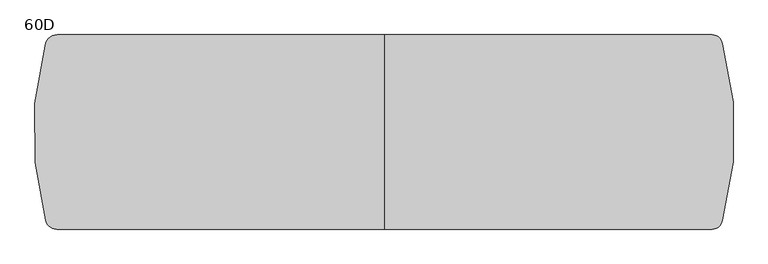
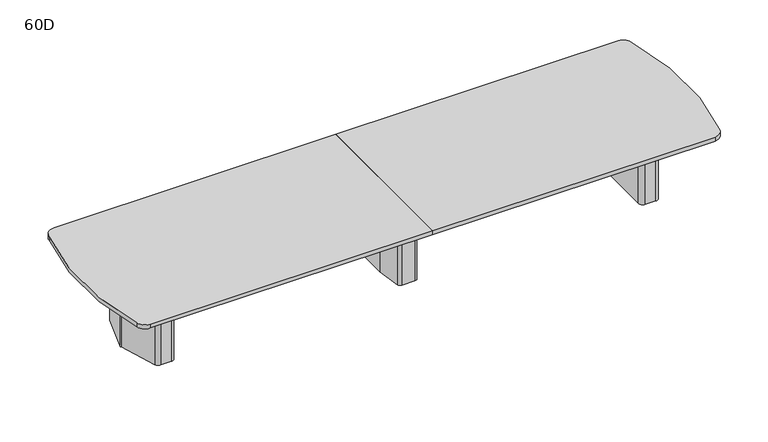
"""IFC4 building model written with IfcOpenShell, lengths in millimetres: furniture geometry, Coalesse_AM_Table_Conference_ETable2_SoftRadiused_18ft_ThreeBase : 60D."""

from ifc_helpers import new_model, si_unit, point, frame, frame_2d, origin, origin_with_axes, place, context, project, spatial, polyline, circle_curve, trimmed, segment, composite_curve, outline, extrude, source, transform, mapped, element, save
from ifc_brep_helpers import plane_surface, cylinder_surface, revolved_surface, advanced_brep


def furniture_60d_32bce57b(model_context):
    return source(origin(), model_context, "Body", "SolidModel", [
        advanced_brep(
        [(61.0357815, 381.0, 698.5), (-61.0357815, 381.0, 698.5), (-86.1885994, 359.1349332, 698.5), (-117.2278179, 138.2753661, 698.5), (-117.475, 134.740433, 698.5), (-117.475, -134.7404196, 698.5), (-117.2278463, -138.2751502, 698.5), (-86.1904395, -359.1347306, 698.5), (-61.0375932, -381.0, 698.5), (61.0375932, -381.0, 698.5), (86.1904395, -359.1347306, 698.5), (117.2278463, -138.2751502, 698.5), (117.475, -134.7404196, 698.5), (117.475, 134.740433, 698.5), (117.2278179, 138.2753661, 698.5), (86.1885994, 359.1349332, 698.5), (25.4, 314.325, 698.5), (50.8, 288.925, 698.5), (50.8, -288.925, 698.5), (25.4, -314.325, 698.5), (-25.4, -314.325, 698.5), (-50.8, -288.925, 698.5), (-50.8, 288.925, 698.5), (-25.4, 314.325, 698.5), (61.0357815, 381.0, 3.175), (86.1885994, 359.1349332, 3.175), (117.2278179, 138.2753661, 3.175), (117.475, 134.740433, 3.175), (117.475, -134.7404196, 3.175), (117.2278463, -138.2751502, 3.175), (86.1904395, -359.1347306, 3.175), (61.0375932, -381.0, 3.175), (-61.0375932, -381.0, 3.175), (-86.1904395, -359.1347306, 3.175), (-117.2278463, -138.2751502, 3.175), (-117.475, -134.7404196, 3.175), (-117.475, 134.740433, 3.175), (-117.2278179, 138.2753661, 3.175), (-86.1885994, 359.1349332, 3.175), (-61.0357815, 381.0, 3.175), (25.4, 327.025, 3.175), (-25.4, 327.025, 3.175), (-63.5, 288.925, 3.175), (-63.5, -288.925, 3.175), (-25.4, -327.025, 3.175), (25.4, -327.025, 3.175), (63.5, -288.925, 3.175), (63.5, 288.925, 3.175), (25.4, 314.325, 3.175), (50.8, 288.925, 3.175), (50.8, -288.925, 3.175), (25.4, -314.325, 3.175), (-25.4, -314.325, 3.175), (-50.8, -288.925, 3.175), (-50.8, 288.925, 3.175), (-25.4, 314.325, 3.175), (25.4, 327.025, 0.0), (63.5, 288.925, 0.0), (63.5, -288.925, 0.0), (25.4, -327.025, 0.0), (-25.4, -327.025, 0.0), (-63.5, -288.925, 0.0), (-63.5, 288.925, 0.0), (-25.4, 327.025, 0.0)],
        [
            (0, 1),
            (1, 2, circle_curve(frame((-61.0357815, 355.6, 698.5), z_axis=(0.0, 0.0, 1.0), x_axis=(1.0, 0.0, 0.0)), 25.4)),
            (2, 3),
            (3, 4, circle_curve(frame((-92.075, 134.740433, 698.5), z_axis=(0.0, 0.0, 1.0), x_axis=(1.0, 0.0, 0.0)), 25.4)),
            (4, 5),
            (5, 6, circle_curve(frame((-92.075, -134.7404196, 698.5), z_axis=(0.0, 0.0, 1.0), x_axis=(1.0, 0.0, 0.0)), 25.4)),
            (6, 7),
            (7, 8, circle_curve(frame((-61.0375932, -355.6, 698.5), z_axis=(0.0, 0.0, 1.0), x_axis=(1.0, 0.0, 0.0)), 25.4)),
            (8, 9),
            (9, 10, circle_curve(frame((61.0375932, -355.6, 698.5), z_axis=(0.0, 0.0, 1.0), x_axis=(1.0, 0.0, 0.0)), 25.4)),
            (10, 11),
            (11, 12, circle_curve(frame((92.075, -134.7404196, 698.5), z_axis=(0.0, 0.0, 1.0), x_axis=(1.0, 0.0, 0.0)), 25.4)),
            (12, 13),
            (13, 14, circle_curve(frame((92.075, 134.740433, 698.5), z_axis=(0.0, 0.0, 1.0), x_axis=(1.0, 0.0, 0.0)), 25.4)),
            (14, 15),
            (15, 0, circle_curve(frame((61.0357815, 355.6, 698.5), z_axis=(0.0, 0.0, 1.0), x_axis=(1.0, 0.0, 0.0)), 25.4)),
            (16, 17, circle_curve(frame((25.4, 288.925, 698.5), z_axis=(0.0, 0.0, -1.0), x_axis=(1.0, 0.0, 0.0)), 25.4)),
            (17, 18),
            (18, 19, circle_curve(frame((25.4, -288.925, 698.5), z_axis=(0.0, 0.0, -1.0), x_axis=(1.0, 0.0, 0.0)), 25.4)),
            (19, 20),
            (20, 21, circle_curve(frame((-25.4, -288.925, 698.5), z_axis=(0.0, 0.0, -1.0), x_axis=(1.0, 0.0, 0.0)), 25.4)),
            (21, 22),
            (22, 23, circle_curve(frame((-25.4, 288.925, 698.5), z_axis=(0.0, 0.0, -1.0), x_axis=(1.0, 0.0, 0.0)), 25.4)),
            (23, 16),
            (24, 25, circle_curve(frame((61.0357815, 355.6, 3.175), z_axis=(0.0, 0.0, -1.0), x_axis=(1.0, 0.0, 0.0)), 25.4)),
            (25, 26),
            (26, 27, circle_curve(frame((92.075, 134.740433, 3.175), z_axis=(0.0, 0.0, -1.0), x_axis=(1.0, 0.0, 0.0)), 25.4)),
            (27, 28),
            (28, 29, circle_curve(frame((92.075, -134.7404196, 3.175), z_axis=(0.0, 0.0, -1.0), x_axis=(1.0, 0.0, 0.0)), 25.4)),
            (29, 30),
            (30, 31, circle_curve(frame((61.0375932, -355.6, 3.175), z_axis=(0.0, 0.0, -1.0), x_axis=(1.0, 0.0, 0.0)), 25.4)),
            (31, 32),
            (32, 33, circle_curve(frame((-61.0375932, -355.6, 3.175), z_axis=(0.0, 0.0, -1.0), x_axis=(1.0, 0.0, 0.0)), 25.4)),
            (33, 34),
            (34, 35, circle_curve(frame((-92.075, -134.7404196, 3.175), z_axis=(0.0, 0.0, -1.0), x_axis=(1.0, 0.0, 0.0)), 25.4)),
            (35, 36),
            (36, 37, circle_curve(frame((-92.075, 134.740433, 3.175), z_axis=(0.0, 0.0, -1.0), x_axis=(1.0, 0.0, 0.0)), 25.4)),
            (37, 38),
            (38, 39, circle_curve(frame((-61.0357815, 355.6, 3.175), z_axis=(0.0, 0.0, -1.0), x_axis=(1.0, 0.0, 0.0)), 25.4)),
            (39, 24),
            (40, 41),
            (41, 42, circle_curve(frame((-25.4, 288.925, 3.175), z_axis=(0.0, 0.0, 1.0), x_axis=(1.0, 0.0, 0.0)), 38.1)),
            (42, 43),
            (43, 44, circle_curve(frame((-25.4, -288.925, 3.175), z_axis=(0.0, 0.0, 1.0), x_axis=(1.0, 0.0, 0.0)), 38.1)),
            (44, 45),
            (45, 46, circle_curve(frame((25.4, -288.925, 3.175), z_axis=(0.0, 0.0, 1.0), x_axis=(1.0, 0.0, 0.0)), 38.1)),
            (46, 47),
            (47, 40, circle_curve(frame((25.4, 288.925, 3.175), z_axis=(0.0, 0.0, 1.0), x_axis=(1.0, 0.0, 0.0)), 38.1)),
            (0, 24),
            (39, 1),
            (38, 2),
            (37, 3),
            (36, 4),
            (35, 5),
            (34, 6),
            (33, 7),
            (32, 8),
            (31, 9),
            (30, 10),
            (29, 11),
            (28, 12),
            (27, 13),
            (26, 14),
            (25, 15),
            (16, 48),
            (48, 49, circle_curve(frame((25.4, 288.925, 3.175), z_axis=(0.0, 0.0, -1.0), x_axis=(1.0, 0.0, 0.0)), 25.4)),
            (49, 17),
            (49, 50),
            (50, 18),
            (50, 51, circle_curve(frame((25.4, -288.925, 3.175), z_axis=(0.0, 0.0, -1.0), x_axis=(1.0, 0.0, 0.0)), 25.4)),
            (51, 19),
            (51, 52),
            (52, 20),
            (52, 53, circle_curve(frame((-25.4, -288.925, 3.175), z_axis=(0.0, 0.0, -1.0), x_axis=(1.0, 0.0, 0.0)), 25.4)),
            (53, 21),
            (53, 54),
            (54, 22),
            (54, 55, circle_curve(frame((-25.4, 288.925, 3.175), z_axis=(0.0, 0.0, -1.0), x_axis=(1.0, 0.0, 0.0)), 25.4)),
            (55, 23),
            (55, 48),
            (56, 57, circle_curve(frame((25.4, 288.925, 0.0), z_axis=(0.0, 0.0, -1.0), x_axis=(1.0, 0.0, 0.0)), 38.1)),
            (57, 58),
            (58, 59, circle_curve(frame((25.4, -288.925, 0.0), z_axis=(0.0, 0.0, -1.0), x_axis=(1.0, 0.0, 0.0)), 38.1)),
            (59, 60),
            (60, 61, circle_curve(frame((-25.4, -288.925, 0.0), z_axis=(0.0, 0.0, -1.0), x_axis=(1.0, 0.0, 0.0)), 38.1)),
            (61, 62),
            (62, 63, circle_curve(frame((-25.4, 288.925, 0.0), z_axis=(0.0, 0.0, -1.0), x_axis=(1.0, 0.0, 0.0)), 38.1)),
            (63, 56),
            (63, 41),
            (40, 56),
            (62, 42),
            (61, 43),
            (60, 44),
            (59, 45),
            (58, 46),
            (57, 47),
        ],
        [
            plane_surface(frame((-1524.0, 381.0, 698.5), z_axis=(0.0, 0.0, 1.0), x_axis=(-1.0, 0.0, 0.0))),
            plane_surface(frame((-1524.0, 381.0, 3.175), z_axis=(0.0, 0.0, -1.0), x_axis=(1.0, 0.0, 0.0))),
            plane_surface(frame((61.0357815, 381.0, 698.5), z_axis=(0.0, 1.0, 0.0), x_axis=(0.0, 0.0, -1.0))),
            cylinder_surface(frame((-61.0357815, 355.6, 3.175), z_axis=(0.0, 0.0, 1.0), x_axis=(1.0, 0.0, 0.0)), 25.4),
            plane_surface(frame((-86.1885994, 359.1349332, 698.5), z_axis=(-0.9902684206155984, 0.13917059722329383, 0.0), x_axis=(0.0, 0.0, -1.0))),
            cylinder_surface(frame((-92.075, 134.740433, 3.175), z_axis=(0.0, 0.0, 1.0), x_axis=(1.0, 0.0, 0.0)), 25.4),
            plane_surface(frame((-117.475, 134.740433, 698.5), z_axis=(-1.0, 0.0, 0.0), x_axis=(0.0, 0.0, -1.0))),
            cylinder_surface(frame((-92.075, -134.7404196, 3.175), z_axis=(0.0, 0.0, 1.0), x_axis=(1.0, 0.0, 0.0)), 25.4),
            plane_surface(frame((-117.2278463, -138.2751502, 698.5), z_axis=(-0.9902695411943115, -0.1391626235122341, 0.0), x_axis=(0.0, 0.0, -1.0))),
            cylinder_surface(frame((-61.0375932, -355.6, 3.175), z_axis=(0.0, 0.0, 1.0), x_axis=(1.0, 0.0, 0.0)), 25.4),
            plane_surface(frame((-61.0375932, -381.0, 698.5), z_axis=(0.0, -1.0, 0.0), x_axis=(0.0, 0.0, -1.0))),
            cylinder_surface(frame((61.0375932, -355.6, 3.175), z_axis=(0.0, 0.0, 1.0), x_axis=(1.0, 0.0, 0.0)), 25.4),
            plane_surface(frame((86.1904395, -359.1347306, 698.5), z_axis=(0.9902695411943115, -0.1391626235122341, 0.0), x_axis=(0.0, 0.0, -1.0))),
            cylinder_surface(frame((92.075, -134.7404196, 3.175), z_axis=(0.0, 0.0, 1.0), x_axis=(1.0, 0.0, 0.0)), 25.4),
            plane_surface(frame((117.475, -134.7404196, 698.5), z_axis=(1.0, 0.0, 0.0), x_axis=(0.0, 0.0, -1.0))),
            cylinder_surface(frame((92.075, 134.740433, 3.175), z_axis=(0.0, 0.0, 1.0), x_axis=(1.0, 0.0, 0.0)), 25.4),
            plane_surface(frame((117.2278179, 138.2753661, 698.5), z_axis=(0.9902684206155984, 0.13917059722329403, 0.0), x_axis=(0.0, 0.0, -1.0))),
            cylinder_surface(frame((61.0357815, 355.6, 3.175), z_axis=(0.0, 0.0, 1.0), x_axis=(1.0, 0.0, 0.0)), 25.4),
            revolved_surface(polyline([(50.8, 288.925, 3.175), (50.8, 288.925, 698.5)]), (25.4, 288.925, 0.0), (0.0, 0.0, -1.0)),
            plane_surface(frame((50.8, 288.925, 698.5), z_axis=(-1.0, 0.0, 0.0), x_axis=(0.0, 0.0, -1.0))),
            revolved_surface(polyline([(50.8, -288.925, 3.175), (50.8, -288.925, 698.5)]), (25.4, -288.925, 0.0), (0.0, 0.0, -1.0)),
            plane_surface(frame((25.4, -314.325, 698.5), z_axis=(0.0, 1.0, 0.0), x_axis=(0.0, 0.0, -1.0))),
            revolved_surface(polyline([(0.0, -288.925, 3.175), (0.0, -288.925, 698.5)]), (-25.4, -288.925, 0.0), (0.0, 0.0, -1.0)),
            plane_surface(frame((-50.8, -288.925, 698.5), z_axis=(1.0, 0.0, 0.0), x_axis=(0.0, 0.0, -1.0))),
            revolved_surface(polyline([(0.0, 288.925, 3.175), (0.0, 288.925, 698.5)]), (-25.4, 288.925, 0.0), (0.0, 0.0, -1.0)),
            plane_surface(frame((-25.4, 314.325, 698.5), z_axis=(0.0, -1.0, 0.0), x_axis=(0.0, 0.0, -1.0))),
            plane_surface(frame((-50.8, 327.025, 3.175), z_axis=(0.0, 0.0, 1.0), x_axis=(-1.0, 0.0, 0.0))),
            plane_surface(frame((-50.8, 327.025, 0.0), z_axis=(0.0, 0.0, -1.0), x_axis=(1.0, 0.0, 0.0))),
            plane_surface(frame((25.4, 327.025, 3.175), z_axis=(0.0, 1.0, 0.0), x_axis=(0.0, 0.0, -1.0))),
            cylinder_surface(frame((-25.4, 288.925, 0.0), z_axis=(0.0, 0.0, 1.0), x_axis=(1.0, 0.0, 0.0)), 38.1),
            plane_surface(frame((-63.5, 288.925, 3.175), z_axis=(-1.0, 0.0, 0.0), x_axis=(0.0, 0.0, -1.0))),
            cylinder_surface(frame((-25.4, -288.925, 0.0), z_axis=(0.0, 0.0, 1.0), x_axis=(1.0, 0.0, 0.0)), 38.1),
            plane_surface(frame((-25.4, -327.025, 3.175), z_axis=(0.0, -1.0, 0.0), x_axis=(0.0, 0.0, -1.0))),
            cylinder_surface(frame((25.4, -288.925, 0.0), z_axis=(0.0, 0.0, 1.0), x_axis=(1.0, 0.0, 0.0)), 38.1),
            plane_surface(frame((63.5, -288.925, 3.175), z_axis=(1.0, 0.0, 0.0), x_axis=(0.0, 0.0, -1.0))),
            cylinder_surface(frame((25.4, 288.925, 0.0), z_axis=(0.0, 0.0, 1.0), x_axis=(1.0, 0.0, 0.0)), 38.1),
        ],
        [
            (0, [[1, 2, 3, 4, 5, 6, 7, 8, 9, 10, 11, 12, 13, 14, 15, 16], [17, 18, 19, 20, 21, 22, 23, 24]]),
            (1, [[25, 26, 27, 28, 29, 30, 31, 32, 33, 34, 35, 36, 37, 38, 39, 40], [41, 42, 43, 44, 45, 46, 47, 48]]),
            (2, [[-1, 49, -40, 50]]),
            (3, [[-2, -50, -39, 51]]),
            (4, [[-3, -51, -38, 52]]),
            (5, [[-4, -52, -37, 53]]),
            (6, [[-5, -53, -36, 54]]),
            (7, [[-6, -54, -35, 55]]),
            (8, [[-7, -55, -34, 56]]),
            (9, [[-8, -56, -33, 57]]),
            (10, [[-9, -57, -32, 58]]),
            (11, [[-10, -58, -31, 59]]),
            (12, [[-11, -59, -30, 60]]),
            (13, [[-12, -60, -29, 61]]),
            (14, [[-13, -61, -28, 62]]),
            (15, [[-14, -62, -27, 63]]),
            (16, [[-15, -63, -26, 64]]),
            (17, [[-16, -64, -25, -49]]),
            (18, [[-17, 65, 66, 67]]),
            (19, [[-18, -67, 68, 69]]),
            (20, [[-19, -69, 70, 71]]),
            (21, [[-20, -71, 72, 73]]),
            (22, [[-21, -73, 74, 75]]),
            (23, [[-22, -75, 76, 77]]),
            (24, [[-23, -77, 78, 79]]),
            (25, [[-24, -79, 80, -65]]),
            (26, [[-66, -80, -78, -76, -74, -72, -70, -68]]),
            (27, [[81, 82, 83, 84, 85, 86, 87, 88]]),
            (28, [[-88, 89, -41, 90]]),
            (29, [[-87, 91, -42, -89]]),
            (30, [[-86, 92, -43, -91]]),
            (31, [[-85, 93, -44, -92]]),
            (32, [[-84, 94, -45, -93]]),
            (33, [[-83, 95, -46, -94]]),
            (34, [[-82, 96, -47, -95]]),
            (35, [[-81, -90, -48, -96]]),
        ],
    ),
        extrude(outline(composite_curve([segment(polyline([(2341.5625, 101.7236478), (2341.5625, -97.2761514)]), True, "CONTINUOUS"), segment(trimmed(circle_curve(frame_2d((2303.4625, -97.2761514)), 38.1), [point((2341.5625, -97.2761514))], [point((2339.7991129, -108.7330515))], False, "CARTESIAN"), True, "CONTINUOUS"), segment(polyline([(2339.7991129, -108.7330515), (2281.3745591, -294.0319001)]), True, "CONTINUOUS"), segment(trimmed(circle_curve(frame_2d((2245.0379462, -282.575)), 38.1), [point((2281.3745591, -294.0319001))], [point((2245.0379462, -320.675))], False, "CARTESIAN"), True, "CONTINUOUS"), segment(polyline([(2245.0379462, -320.675), (2178.05, -320.675)]), True, "CONTINUOUS"), segment(trimmed(circle_curve(frame_2d((2178.05, -282.575)), 38.1), [point((2178.05, -320.675))], [point((2139.95, -282.575))], False, "CARTESIAN"), True, "CONTINUOUS"), segment(polyline([(2139.95, -282.575), (2139.95, 282.575)]), True, "CONTINUOUS"), segment(trimmed(circle_curve(frame_2d((2178.05, 282.575)), 38.1), [point((2139.95, 282.575))], [point((2178.05, 320.675))], False, "CARTESIAN"), True, "CONTINUOUS"), segment(polyline([(2178.05, 320.675), (2248.7873998, 320.675)]), True, "CONTINUOUS"), segment(trimmed(circle_curve(frame_2d((2248.7873998, 282.575)), 38.1), [point((2248.7873998, 320.675))], [point((2285.2572049, 293.6005756))], False, "CARTESIAN"), True, "CONTINUOUS"), segment(polyline([(2285.2572049, 293.6005756), (2339.9323051, 112.7492234)]), True, "CONTINUOUS"), segment(trimmed(circle_curve(frame_2d((2303.4625, 101.7236478)), 38.1), [point((2339.9323051, 112.7492234))], [point((2341.5625, 101.7236478))], False, "CARTESIAN"), True, "CONTINUOUS")], self_intersect=False)), origin_with_axes(), (0.0, 0.0, 1.0), 3.175),
        extrude(outline(composite_curve([segment(polyline([(2162.175, 381.0), (2250.3221663, 381.0)]), True, "CONTINUOUS"), segment(trimmed(circle_curve(frame_2d((2250.3221663, 339.725)), 41.275), [point((2250.3221663, 381.0))], [point((2289.6868303, 352.1366418))], False, "CARTESIAN"), True, "CONTINUOUS"), segment(polyline([(2289.6868303, 352.1366418), (2396.8018053, 12.4116418)]), True, "CONTINUOUS"), segment(trimmed(circle_curve(frame_2d((2357.4371413, 0.0)), 41.275), [point((2396.8018053, 12.4116418))], [point((2396.8018053, -12.4116418))], False, "CARTESIAN"), True, "CONTINUOUS"), segment(polyline([(2396.8018053, -12.4116418), (2289.6868303, -352.1366418)]), True, "CONTINUOUS"), segment(trimmed(circle_curve(frame_2d((2250.3221663, -339.725)), 41.275), [point((2289.6868303, -352.1366418))], [point((2250.3221663, -381.0))], False, "CARTESIAN"), True, "CONTINUOUS"), segment(polyline([(2250.3221663, -381.0), (2155.825, -381.0)]), True, "CONTINUOUS"), segment(trimmed(circle_curve(frame_2d((2155.825, -339.725)), 41.275), [point((2155.825, -381.0))], [point((2114.55, -339.725))], False, "CARTESIAN"), True, "CONTINUOUS"), segment(polyline([(2114.55, -339.725), (2114.55, 333.375)]), True, "CONTINUOUS"), segment(trimmed(circle_curve(frame_2d((2162.175, 333.375)), 47.625), [point((2114.55, 333.375))], [point((2162.175, 381.0))], False, "CARTESIAN"), True, "CONTINUOUS")], self_intersect=False), holes=[composite_curve([segment(trimmed(circle_curve(frame_2d((2178.05, -282.575)), 25.4), [point((2152.65, -282.575))], [point((2178.05, -307.975))], True, "CARTESIAN"), True, "CONTINUOUS"), segment(polyline([(2178.05, -307.975), (2245.0379462, -307.975)]), True, "CONTINUOUS"), segment(trimmed(circle_curve(frame_2d((2245.0379462, -282.575)), 25.4), [point((2245.0379462, -307.975))], [point((2269.2623548, -290.2129334))], True, "CARTESIAN"), True, "CONTINUOUS"), segment(polyline([(2269.2623548, -290.2129334), (2327.6869086, -104.9140848)]), True, "CONTINUOUS"), segment(trimmed(circle_curve(frame_2d((2303.4625, -97.2761514)), 25.4), [point((2327.6869086, -104.9140848))], [point((2328.8625, -97.2761514))], True, "CARTESIAN"), True, "CONTINUOUS"), segment(polyline([(2328.8625, -97.2761514), (2328.8625, 101.7236478)]), True, "CONTINUOUS"), segment(trimmed(circle_curve(frame_2d((2303.4625, 101.7236478)), 25.4), [point((2328.8625, 101.7236478))], [point((2327.7757034, 109.0740316))], True, "CARTESIAN"), True, "CONTINUOUS"), segment(polyline([(2327.7757034, 109.0740316), (2273.1006032, 289.9253837)]), True, "CONTINUOUS"), segment(trimmed(circle_curve(frame_2d((2248.7873998, 282.575)), 25.4), [point((2273.1006032, 289.9253837))], [point((2248.7873998, 307.975))], True, "CARTESIAN"), True, "CONTINUOUS"), segment(polyline([(2248.7873998, 307.975), (2178.05, 307.975)]), True, "CONTINUOUS"), segment(trimmed(circle_curve(frame_2d((2178.05, 282.575)), 25.4), [point((2178.05, 307.975))], [point((2152.65, 282.575))], True, "CARTESIAN"), True, "CONTINUOUS"), segment(polyline([(2152.65, 282.575), (2152.65, -282.575)]), True, "CONTINUOUS")], self_intersect=False)]), frame((0.0, 0.0, 3.175), z_axis=(0.0, 0.0, 1.0), x_axis=(1.0, 0.0, 0.0)), (0.0, 0.0, 1.0), 695.325),
        extrude(outline(composite_curve([segment(trimmed(circle_curve(frame_2d((-2303.4625, 101.7236478)), 38.1), [point((-2341.5625, 101.7236478))], [point((-2339.9323051, 112.7492234))], False, "CARTESIAN"), True, "CONTINUOUS"), segment(polyline([(-2339.9323051, 112.7492234), (-2285.2572049, 293.6005756)]), True, "CONTINUOUS"), segment(trimmed(circle_curve(frame_2d((-2248.7873998, 282.575)), 38.1), [point((-2285.2572049, 293.6005756))], [point((-2248.7873998, 320.675))], False, "CARTESIAN"), True, "CONTINUOUS"), segment(polyline([(-2248.7873998, 320.675), (-2178.05, 320.675)]), True, "CONTINUOUS"), segment(trimmed(circle_curve(frame_2d((-2178.05, 282.575)), 38.1), [point((-2178.05, 320.675))], [point((-2139.95, 282.575))], False, "CARTESIAN"), True, "CONTINUOUS"), segment(polyline([(-2139.95, 282.575), (-2139.95, -282.575)]), True, "CONTINUOUS"), segment(trimmed(circle_curve(frame_2d((-2178.05, -282.575)), 38.1), [point((-2139.95, -282.575))], [point((-2178.05, -320.675))], False, "CARTESIAN"), True, "CONTINUOUS"), segment(polyline([(-2178.05, -320.675), (-2245.0379462, -320.675)]), True, "CONTINUOUS"), segment(trimmed(circle_curve(frame_2d((-2245.0379462, -282.575)), 38.1), [point((-2245.0379462, -320.675))], [point((-2281.3745591, -294.0319001))], False, "CARTESIAN"), True, "CONTINUOUS"), segment(polyline([(-2281.3745591, -294.0319001), (-2339.7991129, -108.7330515)]), True, "CONTINUOUS"), segment(trimmed(circle_curve(frame_2d((-2303.4625, -97.2761514)), 38.1), [point((-2339.7991129, -108.7330515))], [point((-2341.5625, -97.2761514))], False, "CARTESIAN"), True, "CONTINUOUS"), segment(polyline([(-2341.5625, -97.2761514), (-2341.5625, 101.7236478)]), True, "CONTINUOUS")], self_intersect=False)), origin_with_axes(), (0.0, 0.0, 1.0), 3.175),
        extrude(outline(composite_curve([segment(trimmed(circle_curve(frame_2d((-2162.175, 333.375)), 47.625), [point((-2162.175, 381.0))], [point((-2114.55, 333.375))], False, "CARTESIAN"), True, "CONTINUOUS"), segment(polyline([(-2114.55, 333.375), (-2114.55, -339.725)]), True, "CONTINUOUS"), segment(trimmed(circle_curve(frame_2d((-2155.825, -339.725)), 41.275), [point((-2114.55, -339.725))], [point((-2155.825, -381.0))], False, "CARTESIAN"), True, "CONTINUOUS"), segment(polyline([(-2155.825, -381.0), (-2250.3221663, -381.0)]), True, "CONTINUOUS"), segment(trimmed(circle_curve(frame_2d((-2250.3221663, -339.725)), 41.275), [point((-2250.3221663, -381.0))], [point((-2289.6868303, -352.1366418))], False, "CARTESIAN"), True, "CONTINUOUS"), segment(polyline([(-2289.6868303, -352.1366418), (-2396.8018053, -12.4116418)]), True, "CONTINUOUS"), segment(trimmed(circle_curve(frame_2d((-2357.4371413, 0.0)), 41.275), [point((-2396.8018053, -12.4116418))], [point((-2396.8018053, 12.4116418))], False, "CARTESIAN"), True, "CONTINUOUS"), segment(polyline([(-2396.8018053, 12.4116418), (-2289.6868303, 352.1366418)]), True, "CONTINUOUS"), segment(trimmed(circle_curve(frame_2d((-2250.3221663, 339.725)), 41.275), [point((-2289.6868303, 352.1366418))], [point((-2250.3221663, 381.0))], False, "CARTESIAN"), True, "CONTINUOUS"), segment(polyline([(-2250.3221663, 381.0), (-2162.175, 381.0)]), True, "CONTINUOUS")], self_intersect=False), holes=[composite_curve([segment(polyline([(-2152.65, -282.575), (-2152.65, 282.575)]), True, "CONTINUOUS"), segment(trimmed(circle_curve(frame_2d((-2178.05, 282.575)), 25.4), [point((-2152.65, 282.575))], [point((-2178.05, 307.975))], True, "CARTESIAN"), True, "CONTINUOUS"), segment(polyline([(-2178.05, 307.975), (-2248.7873998, 307.975)]), True, "CONTINUOUS"), segment(trimmed(circle_curve(frame_2d((-2248.7873998, 282.575)), 25.4), [point((-2248.7873998, 307.975))], [point((-2273.1006032, 289.9253837))], True, "CARTESIAN"), True, "CONTINUOUS"), segment(polyline([(-2273.1006032, 289.9253837), (-2327.7757034, 109.0740316)]), True, "CONTINUOUS"), segment(trimmed(circle_curve(frame_2d((-2303.4625, 101.7236478)), 25.4), [point((-2327.7757034, 109.0740316))], [point((-2328.8625, 101.7236478))], True, "CARTESIAN"), True, "CONTINUOUS"), segment(polyline([(-2328.8625, 101.7236478), (-2328.8625, -97.2761514)]), True, "CONTINUOUS"), segment(trimmed(circle_curve(frame_2d((-2303.4625, -97.2761514)), 25.4), [point((-2328.8625, -97.2761514))], [point((-2327.6869086, -104.9140848))], True, "CARTESIAN"), True, "CONTINUOUS"), segment(polyline([(-2327.6869086, -104.9140848), (-2269.2623548, -290.2129334)]), True, "CONTINUOUS"), segment(trimmed(circle_curve(frame_2d((-2245.0379462, -282.575)), 25.4), [point((-2269.2623548, -290.2129334))], [point((-2245.0379462, -307.975))], True, "CARTESIAN"), True, "CONTINUOUS"), segment(polyline([(-2245.0379462, -307.975), (-2178.05, -307.975)]), True, "CONTINUOUS"), segment(trimmed(circle_curve(frame_2d((-2178.05, -282.575)), 25.4), [point((-2178.05, -307.975))], [point((-2152.65, -282.575))], True, "CARTESIAN"), True, "CONTINUOUS")], self_intersect=False)]), frame((0.0, 0.0, 3.175), z_axis=(0.0, 0.0, 1.0), x_axis=(1.0, 0.0, 0.0)), (0.0, 0.0, 1.0), 695.325),
        extrude(outline(composite_curve([segment(polyline([(0.0, 762.0), (0.0, -762.0), (-2563.7617771, -762.0)]), True, "CONTINUOUS"), segment(trimmed(circle_curve(frame_2d((-2563.7617771, -673.4532728)), 88.5467272), [point((-2563.7617771, -762.0))], [point((-2649.7932067, -694.4083682))], False, "CARTESIAN"), True, "CONTINUOUS"), segment(trimmed(circle_curve(frame_2d((-115.2979315, 0.0)), 2627.9020685), [point((-2649.7932067, -694.4083682))], [point((-2654.4994042, 676.9971661))], False, "CARTESIAN"), True, "CONTINUOUS"), segment(trimmed(circle_curve(frame_2d((-2558.7602226, 665.5827871)), 96.4172129), [point((-2654.4994042, 676.9971661))], [point((-2558.7602226, 762.0))], False, "CARTESIAN"), True, "CONTINUOUS"), segment(polyline([(-2558.7602226, 762.0), (0.0, 762.0)]), True, "CONTINUOUS")], self_intersect=False)), frame((0.0, 0.0, 698.5), z_axis=(0.0, 0.0, 1.0), x_axis=(1.0, 0.0, 0.0)), (0.0, 0.0, 1.0), 38.1),
        extrude(outline(composite_curve([segment(trimmed(circle_curve(frame_2d((115.2979315, 0.0)), 2627.9020685), [point((2649.7932067, 694.4083682))], [point((2649.7932067, -694.4083682))], False, "CARTESIAN"), True, "CONTINUOUS"), segment(trimmed(circle_curve(frame_2d((2568.9605731, -679.8704298)), 82.1295702), [point((2649.7932067, -694.4083682))], [point((2568.9605731, -762.0))], False, "CARTESIAN"), True, "CONTINUOUS"), segment(polyline([(2568.9605731, -762.0), (0.0, -762.0), (0.0, 762.0), (2568.9605731, 762.0)]), True, "CONTINUOUS"), segment(trimmed(circle_curve(frame_2d((2568.9605731, 679.8704298)), 82.1295702), [point((2568.9605731, 762.0))], [point((2649.7932067, 694.4083682))], False, "CARTESIAN"), True, "CONTINUOUS")], self_intersect=False)), frame((0.0, 0.0, 698.5), z_axis=(0.0, 0.0, 1.0), x_axis=(1.0, 0.0, 0.0)), (0.0, 0.0, 1.0), 38.1),
        extrude(outline(polyline([(96.8375, 698.5), (103.1875, 698.5), (103.1875, 476.25), (-103.1875, 476.25), (-103.1875, 698.5), (-96.8375, 698.5), (-96.8375, 482.6), (96.8375, 482.6), (96.8375, 698.5)])), frame((-2114.55, 0.0, 0.0), z_axis=(1.0, 0.0, 0.0), x_axis=(0.0, 1.0, 0.0)), (0.0, 0.0, 1.0), 4229.1),
    ])


if __name__ == "__main__":
    model = new_model("IFC4")
    model_context = context("Model", 3, world=origin())
    ifc_project = project(units=[si_unit("LENGTHUNIT", "METRE", prefix="MILLI")], contexts=[model_context])
    site = spatial("IfcSite", under=ifc_project)
    building = spatial("IfcBuilding", under=site)
    placement = place(None, origin())
    furniture_60d_shape = furniture_60d_32bce57b(model_context)
    element("IfcFurniture", 1, ObjectType="Coalesse_AM_Table_Conference_ETable2_SoftRadiused_18ft_ThreeBase : 60D", at=placement, inside=building, context=model_context, shape_type="MappedRepresentation", body=[
        mapped(furniture_60d_shape, transform((0.0, 0.0, 0.0), x_axis=(1.0, 0.0, 0.0), y_axis=(0.0, 1.0, 0.0), z_axis=(0.0, 0.0, 1.0))),
    ])
    save(model, "model.ifc")
